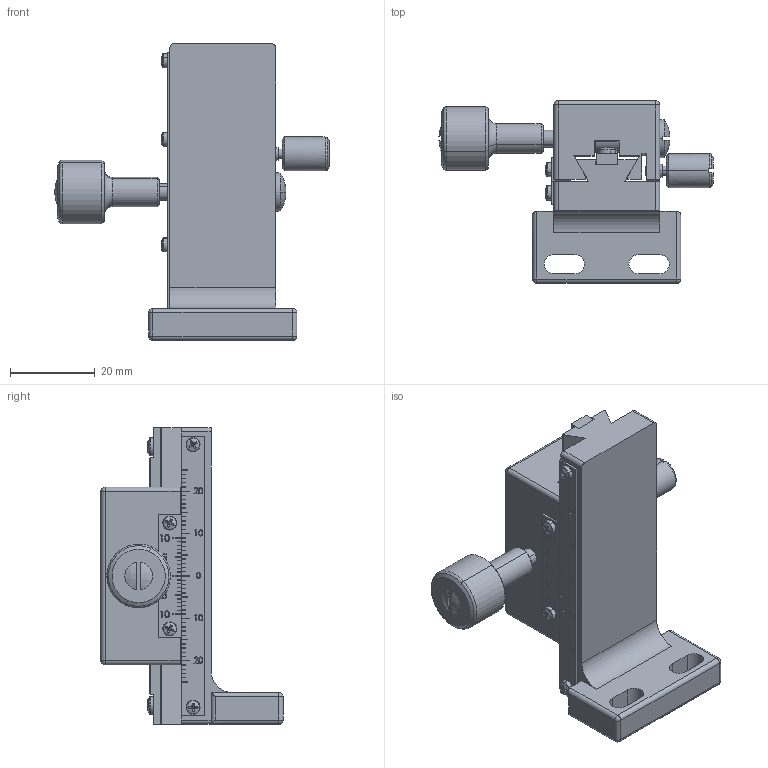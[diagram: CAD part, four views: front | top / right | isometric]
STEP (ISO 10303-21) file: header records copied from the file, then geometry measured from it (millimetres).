
FILE_DESCRIPTION (( 'STEP AP203' ), '1' );
FILE_NAME ('MC3C-70(«¬¿ý).STEP', '2013-09-20T06:49:52', ( '' ), ( '' ), 'SwSTEP 2.0', 'SolidWorks 2013', '' );
FILE_SCHEMA (( 'CONFIG_CONTROL_DESIGN' ));
Length unit declared in the file: centimetre
Products named in the file (3): Group1^MC3C-70(型錄); Group2^MC3C-70(型錄); MC3C-70(型錄)
Assembly tree (2 placements, depth 2):
  MC3C-70(型錄)
    Group1^MC3C-70(型錄)
    Group2^MC3C-70(型錄)
Bounding box: 64.71 x 43 x 70 mm (x, y, z)
Volume: 39615.5 mm3; surface area: 16825.6 mm2
Topology: 2 solids, 2 shells, 1420 faces, 3804 edges, 2452 vertices
Faces by surface type: plane 908, bspline 234, cylinder 126, cone 108, sphere 26, torus 18
Entity records: 58639 total; most frequent: CARTESIAN_POINT 24397, ORIENTED_EDGE 7536, DIRECTION 6166, EDGE_CURVE 3768, LINE 2636, VECTOR 2636, VERTEX_POINT 2452, AXIS2_PLACEMENT_3D 1765
